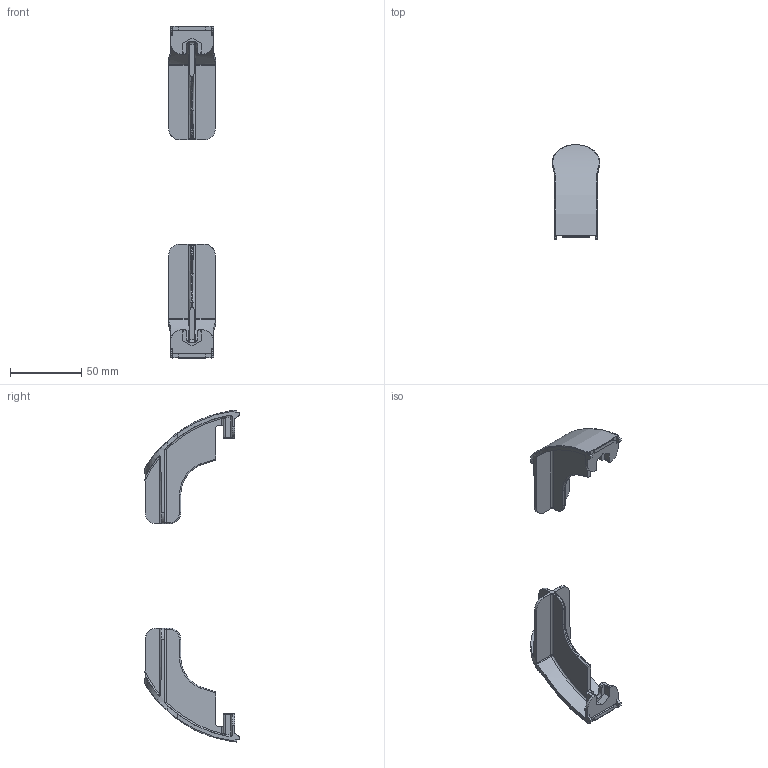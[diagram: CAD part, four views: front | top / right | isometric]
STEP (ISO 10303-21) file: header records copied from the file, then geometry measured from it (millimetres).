
FILE_DESCRIPTION(('STEP AP242'),'1');
FILE_NAME('fath_092305.stp','2021-03-30T11:24:09',('TraceParts'),('TraceParts S.A.'),'Spatial InterOp 3D',' ',' ');
FILE_SCHEMA(('AP242_MANAGED_MODEL_BASED_3D_ENGINEERING_MIM_LF {1 0 10303 442 1 1 4}'));
Length unit declared in the file: millimetre
Products named in the file (1): fath_092305_1
Bounding box: 33.54 x 66.14 x 232.94 mm (x, y, z)
Volume: 36130.3 mm3; surface area: 26472.9 mm2
Topology: 2 solids, 2 shells, 282 faces, 758 edges, 456 vertices
Faces by surface type: cylinder 102, plane 90, bspline 66, sphere 16, cone 4, torus 4
Entity records: 11891 total; most frequent: CARTESIAN_POINT 5612, ORIENTED_EDGE 1468, DIRECTION 1134, EDGE_CURVE 734, VERTEX_POINT 456, AXIS2_PLACEMENT_3D 402, LINE 330, VECTOR 330
